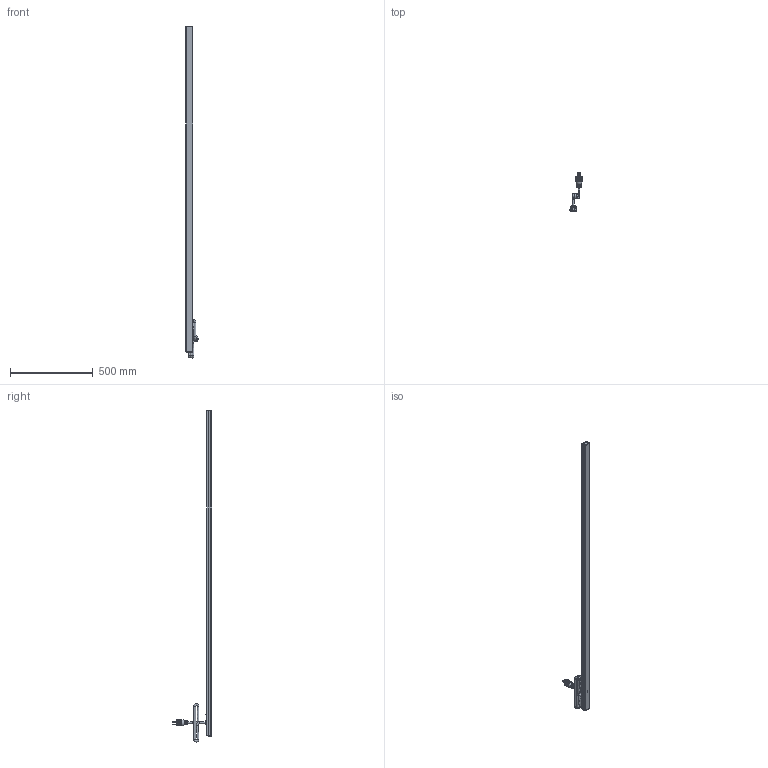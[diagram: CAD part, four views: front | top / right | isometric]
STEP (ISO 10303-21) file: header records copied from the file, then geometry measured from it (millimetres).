
FILE_DESCRIPTION((''),'2;1');
FILE_NAME('E:\Dutton\Manufacturing\drawings\Updated 2009\Vertical Rack Mount Strips\1589 Series\STEP''s\1589H77C1.stp','2010-01-21T08:30:51',('tfoster'),(''),'Autodesk Inventor 2010','Autodesk Inventor 2010','');
FILE_SCHEMA(('AUTOMOTIVE_DESIGN { 1 0 10303 214 1 1 1 1 }'));
Products named in the file (14): 1589H77C1; 77' - 12 Outlet top; 77' bottom; End Cap; End Cap w breaker; Reset Switch; #6 - 0.375 Type A screw; 20 amp Twist Cored; toothwasher; round head 1-way 8-32 x 0.5 screw; Power Switch Assembly; Power Switch; Power Switch pt; 20 Amp Receptacle
Assembly tree (25 placements, depth 3):
  1589H77C1
    End Cap
    End Cap w breaker
    Reset Switch
    #6 - 0.375 Type A screw  x4
    20 amp Twist Cored
    toothwasher
    round head 1-way 8-32 x 0.5 screw
    Power Switch Assembly
      Power Switch
      Power Switch pt
    20 Amp Receptacle  x12
  77' - 12 Outlet top
  77' bottom
Bounding box: 72.44 x 237.87 x 2000.14 mm (x, y, z)
Volume: 785207.7 mm3; surface area: 741369.3 mm2
Topology: 26 solids, 26 shells, 1558 faces, 4300 edges, 2774 vertices
Faces by surface type: plane 1023, cylinder 328, bspline 103, sphere 53, cone 35, torus 16
Full cylindrical faces by diameter (mm): 1 x2, 1.803 x3, 1.905 x2, 2.794 x3, 3.175 x12, 4.3 x1, 4.826 x1, 7.849 x1, 11 x4, 12.5 x1, 19.05 x2, 22.606 x2, 25.146 x3, 26.67 x1
Entity records: 31307 total; most frequent: CARTESIAN_POINT 9540, ORIENTED_EDGE 4600, DIRECTION 4174, EDGE_CURVE 2300, VERTEX_POINT 1567, VECTOR 1398, LINE 1398, AXIS2_PLACEMENT_3D 1388
